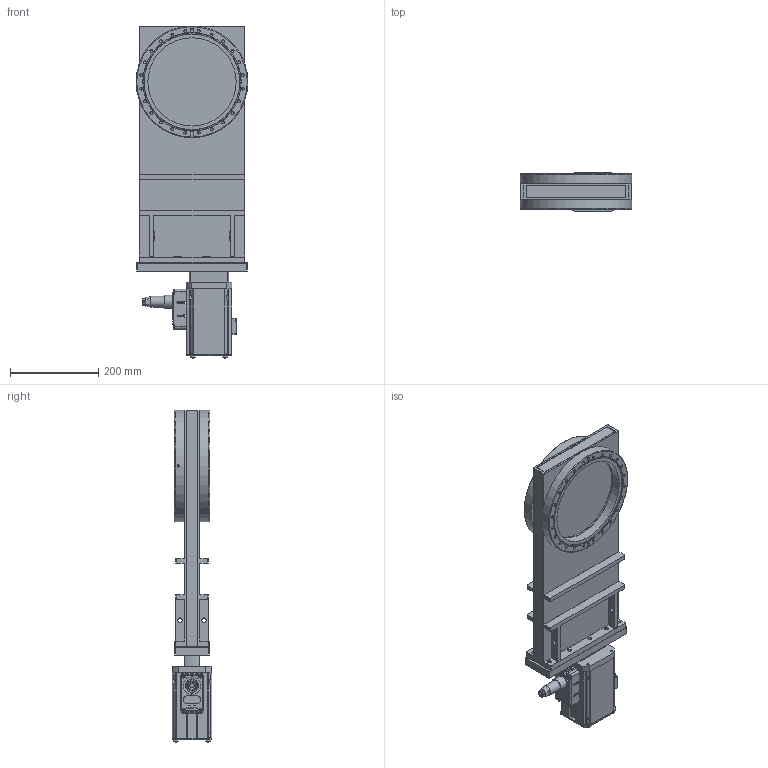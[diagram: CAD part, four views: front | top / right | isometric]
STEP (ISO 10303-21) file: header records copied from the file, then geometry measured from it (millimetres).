
FILE_DESCRIPTION(/* description */ (''),/* implementation_level */ '2;1');
FILE_NAME(/* name */ '1017826984_203.stp',/* time_stamp */ '2017-07-11T15:32:12+02:00',/* author */ (''),/* organization */ (''),/* preprocessor_version */ 'ST-DEVELOPER v15',/* originating_system */ 'SIEMENS PLM Software NX 9.0',/* authorisation */ '');
FILE_SCHEMA (('AP203_CONFIGURATION_CONTROLLED_3D_DESIGN_OF_MECHANICAL_PARTS_AND_ASSEMBLIES_MIM_LF { 1 0 10303 403 2 1 2}'));
Length unit declared in the file: millimetre
Products named in the file (44): n-6197-034.1; n-7100-007.2; 395614; 94220-01.1; 94224-01.2; 834044_36424ID; 834044_36449ID; 834044_36448ID; 834044_36447ID; 834046_36446ID; 834046_36445ID; 834046_36444ID; 834046_36443ID; 834014_36441ID; 834014_36440ID; 834006_36438ID; 834001_36436ID; 834001_36435ID; 833986_36433ID; 833986_36426ID; n-6024-526; N-7100-014_2.1; 94828-01.1; N-7100-012_3.1; N-6024-571.1; 85949-01.1; 67114-01.1; n-6099-511.1; 23657-01.1_36428ID; 23657-01.1_36431ID; 65313-01.1; 570870; 74628-01.3; n-6024-548.1; 70973-01.1; n-8504-002; 69130-01.2; 778871; 94827-r1.1; 395615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
Assembly tree (64 placements, depth 4):
  898655
    826670
      834047
        833986_36426ID
        833986_36433ID
        834001_36435ID
        834001_36436ID
        834006_36438ID
        834014_36440ID
        834014_36441ID
        834046_36443ID
        834046_36444ID
        834046_36445ID
        834046_36446ID
        834044_36447ID
        834044_36448ID
        834044_36449ID
        834044_36424ID
      23657-01.1_36431ID
      23657-01.1_36428ID
      n-6099-511.1  x2
    94237-r1.2
      67114-01.1  x4
      85949-01.1
      N-6024-571.1  x4
      395615
        94224-01.2
        94220-01.1
        395614
        n-7100-007.2  x2
        n-6197-034.1
    778871  x10
    69130-01.2
    n-8504-002
    70973-01.1
    n-6024-548.1  x4
    74628-01.3
    570870
    65313-01.1
    94827-r1.1
      N-7100-012_3.1
      94828-01.1
      N-7100-014_2.1
      n-6024-526  x2
Bounding box: 253.2 x 90 x 752.45 mm (x, y, z)
Volume: 4184028.3 mm3; surface area: 1117631.5 mm2
Topology: 66 solids, 78 shells, 2719 faces, 6929 edges, 4554 vertices
Faces by surface type: plane 1685, cylinder 569, extrusion 199, cone 131, torus 117, sphere 10, bspline 8
Full cylindrical faces by diameter (mm): 0.7 x1, 0.725 x1, 1.5 x6, 1.66 x7, 2 x3, 2.125 x1, 2.5 x10, 2.65 x1, 3 x6, 3.3 x6, 4 x8, 4.05 x4, 4.2 x2, 4.35 x2, 4.4 x4, 4.45 x4, 4.5 x2, 4.625 x2, 5 x10, 5.4 x2, 5.8 x1, 5.9 x1, 6 x15, 6.6 x4, 6.8 x48, 6.85 x4, 7.05 x3, 7.5 x4, 7.982 x4, 8 x6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
Entity records: 83007 total; most frequent: CARTESIAN_POINT 21893, ORIENTED_EDGE 11046, DIRECTION 10119, EDGE_CURVE 5523, VERTEX_POINT 3877, AXIS2_PLACEMENT_3D 3379, VECTOR 3361, LINE 3162
